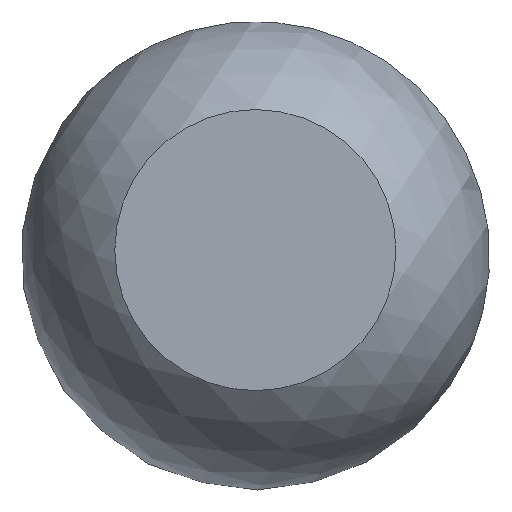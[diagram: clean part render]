
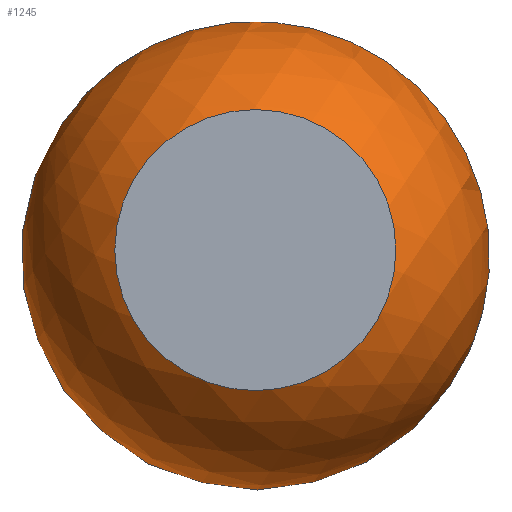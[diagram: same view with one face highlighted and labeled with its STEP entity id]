
A CAD part, top view. The second image highlights one B-rep face of the part: STEP entity #1245.
In plain terms, the highlighted spherical face has radius 100 mm.
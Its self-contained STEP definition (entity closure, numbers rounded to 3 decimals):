
#45=FACE_BOUND('',#358,.T.);
#87=SPHERICAL_SURFACE('',#1398,100.);
#254=FACE_OUTER_BOUND('',#357,.T.);
#357=EDGE_LOOP('',(#886,#887));
#358=EDGE_LOOP('',(#888));
#473=CIRCLE('',#1395,14.485);
#475=CIRCLE('',#1399,100.);
#577=VERTEX_POINT('',#2098);
#580=VERTEX_POINT('',#2106);
#581=VERTEX_POINT('',#2107);
#693=EDGE_CURVE('',#577,#577,#473,.T.);
#695=EDGE_CURVE('',#580,#581,#475,.T.);
#886=ORIENTED_EDGE('',*,*,#695,.T.);
#887=ORIENTED_EDGE('',*,*,#695,.F.);
#888=ORIENTED_EDGE('',*,*,#693,.F.);
#1245=ADVANCED_FACE('',(#254,#45),#87,.T.);
#1395=AXIS2_PLACEMENT_3D('',#2100,#1633,#1634);
#1398=AXIS2_PLACEMENT_3D('',#2105,#1639,#1640);
#1399=AXIS2_PLACEMENT_3D('',#2108,#1641,#1642);
#1633=DIRECTION('center_axis',(0.,0.,
1.));
#1634=DIRECTION('ref_axis',(-0.56,-0.828,0.));
#1639=DIRECTION('center_axis',(-0.828,0.56,0.));
#1640=DIRECTION('ref_axis',(-0.56,-0.828,0.));
#1641=DIRECTION('center_axis',(0.,0.,
-1.));
#1642=DIRECTION('ref_axis',(0.56,0.828,0.));
#2098=CARTESIAN_POINT('',(12.001,-8.112,198.945));
#2100=CARTESIAN_POINT('Origin',(0.,0.,
198.945));
#2105=CARTESIAN_POINT('Origin',(0.,0.,
100.));
#2106=CARTESIAN_POINT('',(-82.848,56.001,100.));
#2107=CARTESIAN_POINT('',(82.848,-56.001,100.));
#2108=CARTESIAN_POINT('Origin',(0.,0.,
100.));
